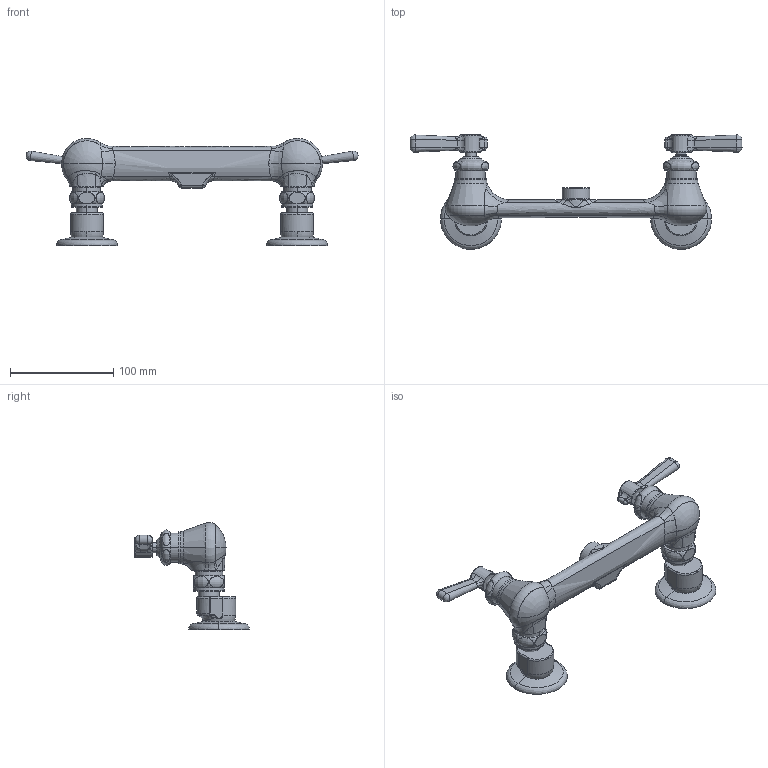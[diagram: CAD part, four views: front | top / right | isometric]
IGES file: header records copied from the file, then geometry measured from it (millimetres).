
Start section:  PTC IGES file: 540-ldlesxkab_sw0001.igs
Global section: file name: 540-ldlesxkab_sw0001.igs; native system: Creo Parametric by Parametric Technology Corporation; preprocessor: 2014310; author: rodjo; organization: Unknown; date: 20150209.140145; units: inch
Bounding box: 321.02 x 110.78 x 103.58 mm (x, y, z)
Surface area: 75067.4 mm2 (no closed solid volume)
Topology: 0 solids, 0 shells, 446 faces, 3078 edges, 4033 vertices
Faces by surface type: bspline 285, revolution 161
